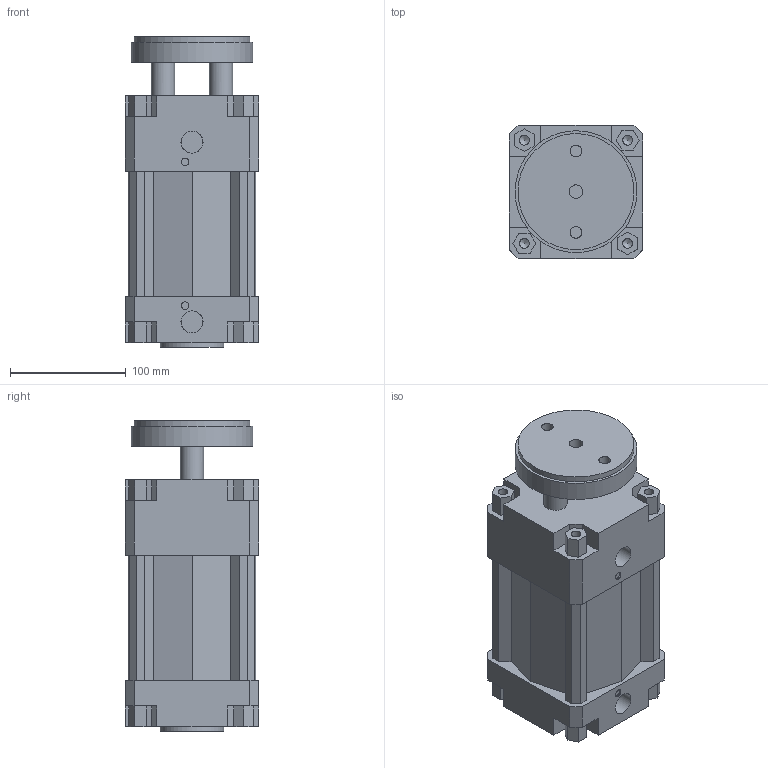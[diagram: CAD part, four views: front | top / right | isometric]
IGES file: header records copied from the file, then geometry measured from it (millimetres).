
Global section: file name: 134#_100_0050_01; native system: Autodesk Inventor 2014; preprocessor: unknown; author: A. Manieri; date: 20161006.165248; units: millimetre
Bounding box: 115 x 115 x 268 mm (x, y, z)
Volume: 2260687.8 mm3; surface area: 276347.1 mm2
Topology: 2 solids, 2 shells, 180 faces, 491 edges, 335 vertices
Faces by surface type: bspline 180
